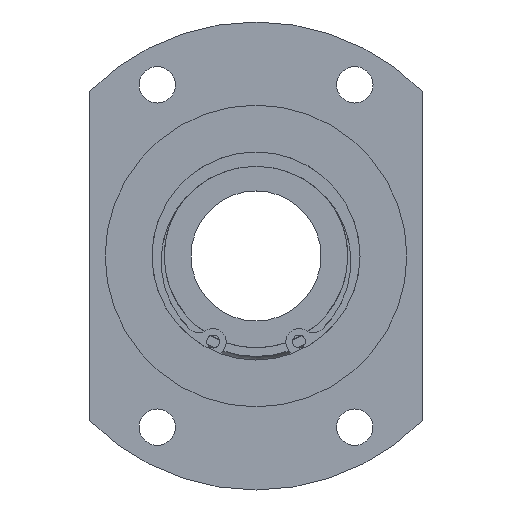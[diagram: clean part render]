
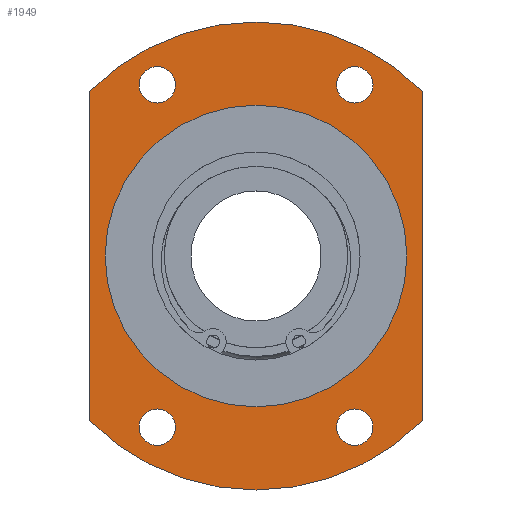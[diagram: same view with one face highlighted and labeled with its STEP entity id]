
A CAD part, left-side view. The second image highlights one B-rep face of the part: STEP entity #1949.
In plain terms, the highlighted planar face has unit normal (-1, 0, 0).
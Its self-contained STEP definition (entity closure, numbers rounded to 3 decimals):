
#1709=CARTESIAN_POINT('',(11.0,22.5,-32.909));
#1710=VERTEX_POINT('',#1709);
#1711=CARTESIAN_POINT('',(11.,19.,-32.909));
#1712=DIRECTION('',(1.0,0.0,0.0));
#1713=DIRECTION('',(0.0,1.0,0.0));
#1714=AXIS2_PLACEMENT_3D('',#1711,#1712,#1713);
#1715=CIRCLE('',#1714,3.5);
#1716=EDGE_CURVE('',#1710,#1710,#1715,.T.);
#1737=CARTESIAN_POINT('',(11.0,-15.5,32.909));
#1738=VERTEX_POINT('',#1737);
#1739=CARTESIAN_POINT('',(11.,-19.,32.909));
#1740=DIRECTION('',(1.0,0.0,0.0));
#1741=DIRECTION('',(0.0,1.0,0.0));
#1742=AXIS2_PLACEMENT_3D('',#1739,#1740,#1741);
#1743=CIRCLE('',#1742,3.5);
#1744=EDGE_CURVE('',#1738,#1738,#1743,.T.);
#1765=CARTESIAN_POINT('',(11.0,22.5,32.909));
#1766=VERTEX_POINT('',#1765);
#1767=CARTESIAN_POINT('',(11.,19.,32.909));
#1768=DIRECTION('',(1.0,0.0,0.0));
#1769=DIRECTION('',(0.0,1.0,0.0));
#1770=AXIS2_PLACEMENT_3D('',#1767,#1768,#1769);
#1771=CIRCLE('',#1770,3.5);
#1772=EDGE_CURVE('',#1766,#1766,#1771,.T.);
#1793=CARTESIAN_POINT('',(11.0,-15.5,-32.909));
#1794=VERTEX_POINT('',#1793);
#1795=CARTESIAN_POINT('',(11.,-19.,-32.909));
#1796=DIRECTION('',(1.0,0.0,0.0));
#1797=DIRECTION('',(0.0,1.0,0.0));
#1798=AXIS2_PLACEMENT_3D('',#1795,#1796,#1797);
#1799=CIRCLE('',#1798,3.5);
#1800=EDGE_CURVE('',#1794,#1794,#1799,.T.);
#1820=CARTESIAN_POINT('',(11.0,32.,-31.639));
#1821=VERTEX_POINT('',#1820);
#1828=CARTESIAN_POINT('',(11.0,32.,31.639));
#1829=VERTEX_POINT('',#1828);
#1830=CARTESIAN_POINT('',(11.0,32.,31.639));
#1831=DIRECTION('',(0.0,0.0,-1.0));
#1832=VECTOR('',#1831,63.277);
#1833=LINE('',#1830,#1832);
#1834=EDGE_CURVE('',#1829,#1821,#1833,.T.);
#1860=CARTESIAN_POINT('',(11.0,-32.,31.639));
#1861=VERTEX_POINT('',#1860);
#1868=CARTESIAN_POINT('',(11.0,-32.,-31.639));
#1869=VERTEX_POINT('',#1868);
#1870=CARTESIAN_POINT('',(11.0,-32.,-31.639));
#1871=DIRECTION('',(0.0,0.0,1.0));
#1872=VECTOR('',#1871,63.277);
#1873=LINE('',#1870,#1872);
#1874=EDGE_CURVE('',#1869,#1861,#1873,.T.);
#1899=CARTESIAN_POINT('',(11.,0.0,0.0));
#1900=DIRECTION('',(-1.0,0.0,0.0));
#1901=DIRECTION('',(0.0,0.0,1.0));
#1902=AXIS2_PLACEMENT_3D('',#1899,#1900,#1901);
#1903=CIRCLE('',#1902,45.0);
#1904=EDGE_CURVE('',#1821,#1869,#1903,.T.);
#1909=CARTESIAN_POINT('',(11.,0.0,37.0));
#1910=DIRECTION('',(-1.0,0.0,0.0));
#1911=DIRECTION('',(0.0,0.0,1.0));
#1912=AXIS2_PLACEMENT_3D('',#1909,#1910,#1911);
#1913=PLANE('',#1912);
#1914=ORIENTED_EDGE('',*,*,#1834,.T.);
#1915=ORIENTED_EDGE('',*,*,#1904,.T.);
#1916=ORIENTED_EDGE('',*,*,#1874,.T.);
#1917=CARTESIAN_POINT('',(11.,0.0,0.0));
#1918=DIRECTION('',(-1.0,0.0,0.0));
#1919=DIRECTION('',(0.0,0.0,1.0));
#1920=AXIS2_PLACEMENT_3D('',#1917,#1918,#1919);
#1921=CIRCLE('',#1920,45.0);
#1922=EDGE_CURVE('',#1861,#1829,#1921,.T.);
#1923=ORIENTED_EDGE('',*,*,#1922,.T.);
#1924=EDGE_LOOP('',(#1914,#1915,#1916,#1923));
#1925=FACE_OUTER_BOUND('',#1924,.T.);
#1926=ORIENTED_EDGE('',*,*,#1716,.T.);
#1927=EDGE_LOOP('',(#1926));
#1928=FACE_BOUND('',#1927,.T.);
#1929=ORIENTED_EDGE('',*,*,#1744,.T.);
#1930=EDGE_LOOP('',(#1929));
#1931=FACE_BOUND('',#1930,.T.);
#1932=ORIENTED_EDGE('',*,*,#1772,.T.);
#1933=EDGE_LOOP('',(#1932));
#1934=FACE_BOUND('',#1933,.T.);
#1935=ORIENTED_EDGE('',*,*,#1800,.T.);
#1936=EDGE_LOOP('',(#1935));
#1937=FACE_BOUND('',#1936,.T.);
#1938=CARTESIAN_POINT('',(11.0,0.0,29.));
#1939=VERTEX_POINT('',#1938);
#1940=CARTESIAN_POINT('',(11.0,0.0,0.0));
#1941=DIRECTION('',(-1.0,0.0,0.0));
#1942=DIRECTION('',(0.0,0.0,1.0));
#1943=AXIS2_PLACEMENT_3D('',#1940,#1941,#1942);
#1944=CIRCLE('',#1943,29.);
#1945=EDGE_CURVE('',#1939,#1939,#1944,.T.);
#1946=ORIENTED_EDGE('',*,*,#1945,.F.);
#1947=EDGE_LOOP('',(#1946));
#1948=FACE_BOUND('',#1947,.T.);
#1949=ADVANCED_FACE('',(#1925,#1928,#1931,#1934,#1937,#1948),#1913,.T.);
